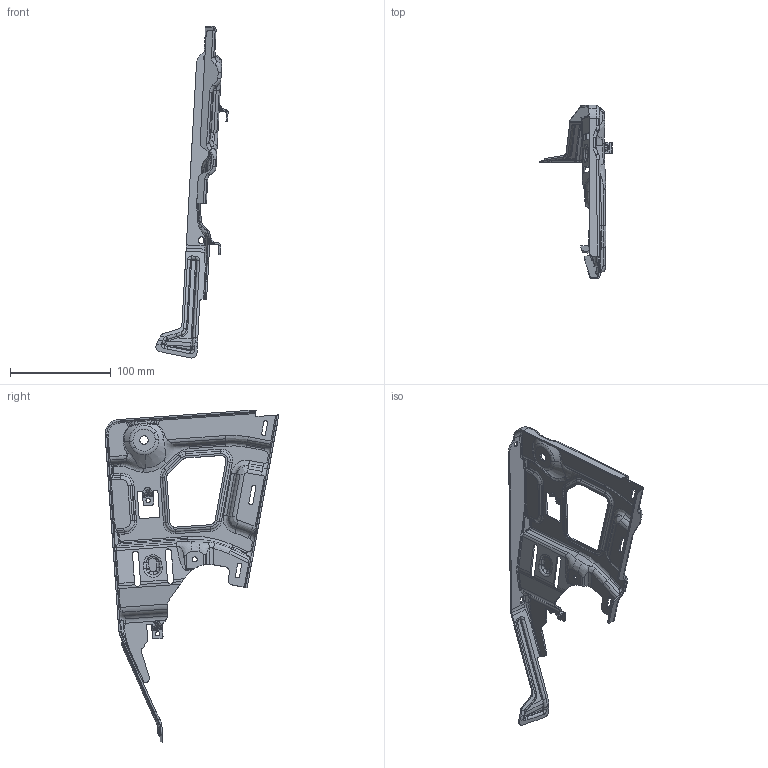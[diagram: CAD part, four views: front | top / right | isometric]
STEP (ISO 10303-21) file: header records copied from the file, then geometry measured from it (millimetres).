
FILE_DESCRIPTION(('CATIA V5 STEP Exchange'),'2;1');
FILE_NAME('D:\杨逍（新）\06-李燕龙\2023.1.9-G3新开件2D图纸-李燕龙\钣金单件图纸\SHT0015256-副驾安全带高调机构固定板1\SHT0015256.stp','2023-01-11T06:11:40+00:00',('none'),('none'),'CATIA Version 5 Release 20 GA (IN-10)','CATIA V5 STEP AP214','none');
FILE_SCHEMA(('AUTOMOTIVE_DESIGN { 1 0 10303 214 1 1 1 1 }'));
Products named in the file (1): Part60
Bounding box: 71.78 x 172.89 x 330.21 mm (x, y, z)
Volume: 54773.2 mm3; surface area: 71410.7 mm2
Topology: 1 solids, 1 shells, 892 faces, 2509 edges, 1581 vertices
Faces by surface type: cylinder 459, bspline 204, plane 131, torus 54, sphere 32, cone 12
Entity records: 175340 total; most frequent: CARTESIAN_POINT 155999, ORIENTED_EDGE 4942, EDGE_CURVE 2471, DIRECTION 2457, VERTEX_POINT 1581, B_SPLINE_CURVE_WITH_KNOTS 1330, AXIS2_PLACEMENT_3D 1028, EDGE_LOOP 918
